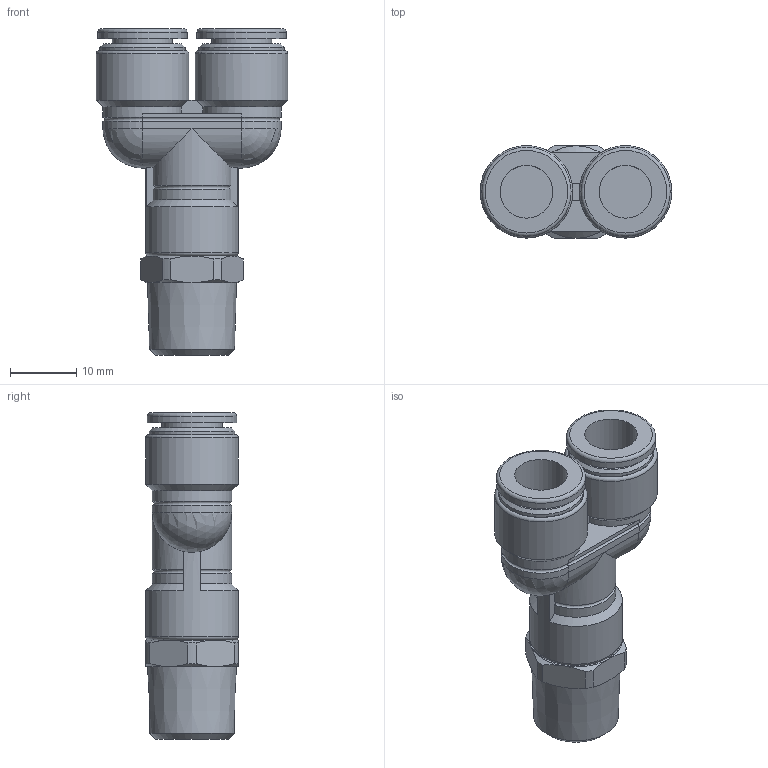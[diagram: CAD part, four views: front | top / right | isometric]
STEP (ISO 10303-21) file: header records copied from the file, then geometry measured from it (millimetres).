
FILE_DESCRIPTION(/* description */ (''),/* implementation_level */ '2;1');
FILE_NAME(/* name */ 'E:\2013年度版　3D-DATA\【02】 TOUCH CONNECTOR FIVE SUS\[04] MALE BRANCH Y\[09] FS8-02MY FS8-02MYW.stp',/* time_stamp */ '2013-08-06T16:56:31+09:00',/* author */ ('takahashi-pc2'),/* organization */ (''),/* preprocessor_version */ 'ST-DEVELOPER v15.2',/* originating_system */ 'Autodesk Inventor 2014',/* authorisation */ '');
FILE_SCHEMA (('AUTOMOTIVE_DESIGN { 1 0 10303 214 3 1 1 }'));
Length unit declared in the file: millimetre
Products named in the file (1): [09] FS8-02MY FS8-02MYW
Bounding box: 29 x 14 x 49.4 mm (x, y, z)
Volume: 8273.8 mm3; surface area: 4441.4 mm2
Topology: 1 solids, 1 shells, 92 faces, 206 edges, 122 vertices
Faces by surface type: plane 32, cylinder 29, cone 20, torus 9, sphere 2
Full cylindrical faces by diameter (mm): 8 x2, 9.1 x2, 12.9 x2, 13.5 x2, 14 x3
Entity records: 2437 total; most frequent: CARTESIAN_POINT 533, DIRECTION 414, ORIENTED_EDGE 358, AXIS2_PLACEMENT_3D 180, EDGE_CURVE 179, EDGE_LOOP 122, VERTEX_POINT 119, ADVANCED_FACE 92
